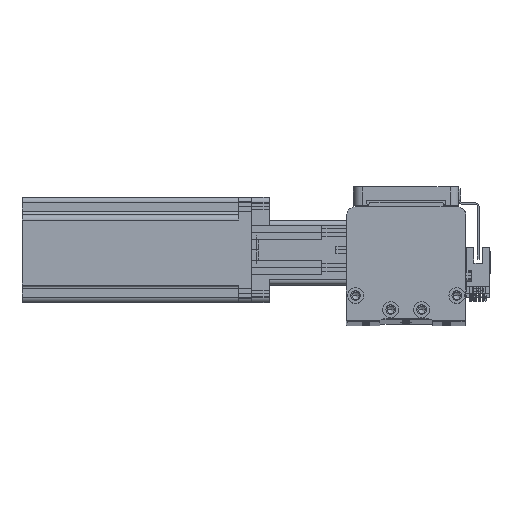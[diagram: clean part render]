
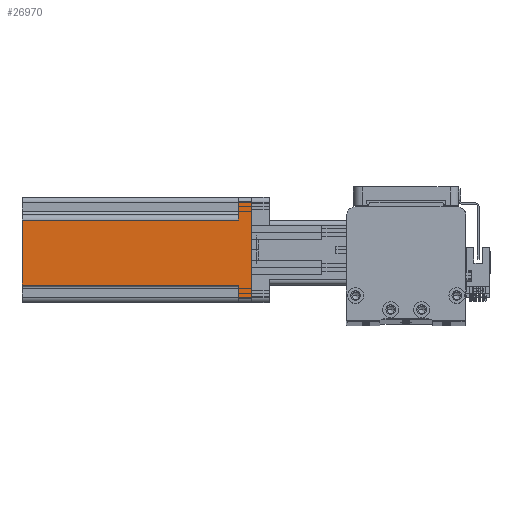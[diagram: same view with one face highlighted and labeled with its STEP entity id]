
A CAD part, top view. The second image highlights one B-rep face of the part: STEP entity #26970.
In plain terms, the highlighted planar face has unit normal (0, 0, 1) as drawn and (-1, 0, 0) by its records, which use the part's own axes.
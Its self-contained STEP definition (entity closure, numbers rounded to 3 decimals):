
#1935 = VERTEX_POINT ( 'NONE', #31607 ) ;
#2032 = PLANE ( 'NONE',  #30267 ) ;
#2621 = EDGE_CURVE ( 'NONE', #3790, #41989, #28660, .T. ) ;
#2654 = ORIENTED_EDGE ( 'NONE', *, *, #32243, .F. ) ;
#3316 = DIRECTION ( 'NONE',  ( 0., 0., 1. ) ) ;
#3790 = VERTEX_POINT ( 'NONE', #40654 ) ;
#4257 = CARTESIAN_POINT ( 'NONE',  ( -30., 27., 0. ) ) ;
#4940 = VECTOR ( 'NONE', #26757, 1000. ) ;
#5312 = ORIENTED_EDGE ( 'NONE', *, *, #17435, .T. ) ;
#5363 = ORIENTED_EDGE ( 'NONE', *, *, #2621, .F. ) ;
#5687 = LINE ( 'NONE', #50503, #26738 ) ;
#5998 = CARTESIAN_POINT ( 'NONE',  ( -30., -17., 7.5 ) ) ;
#6180 = DIRECTION ( 'NONE',  ( 1., 0., 0. ) ) ;
#6422 = EDGE_CURVE ( 'NONE', #34383, #1935, #14654, .T. ) ;
#11499 = EDGE_CURVE ( 'NONE', #50074, #3790, #11904, .T. ) ;
#11904 = LINE ( 'NONE', #23036, #41077 ) ;
#12210 = ORIENTED_EDGE ( 'NONE', *, *, #29849, .T. ) ;
#13269 = CARTESIAN_POINT ( 'NONE',  ( -30., -17., 130.7 ) ) ;
#14654 = LINE ( 'NONE', #41791, #33341 ) ;
#15485 = CARTESIAN_POINT ( 'NONE',  ( -30., -17., 130.7 ) ) ;
#16130 = LINE ( 'NONE', #15485, #17374 ) ;
#16532 = DIRECTION ( 'NONE',  ( 0., 1., 0. ) ) ;
#16864 = VECTOR ( 'NONE', #38345, 1000. ) ;
#17374 = VECTOR ( 'NONE', #23313, 1000. ) ;
#17435 = EDGE_CURVE ( 'NONE', #50074, #40183, #48961, .T. ) ;
#19873 = LINE ( 'NONE', #44743, #50319 ) ;
#20523 = CARTESIAN_POINT ( 'NONE',  ( -30., 30., 7.5 ) ) ;
#20949 = DIRECTION ( 'NONE',  ( 0., 0., -1. ) ) ;
#21459 = CARTESIAN_POINT ( 'NONE',  ( -30., 27., 7.5 ) ) ;
#21828 = DIRECTION ( 'NONE',  ( 0., 0., 1. ) ) ;
#22328 = EDGE_LOOP ( 'NONE', ( #2654, #47645, #5363, #33749, #5312, #12210, #35015, #28798 ) ) ;
#23036 = CARTESIAN_POINT ( 'NONE',  ( -30., 20., 7.5 ) ) ;
#23313 = DIRECTION ( 'NONE',  ( 0., 0., 1. ) ) ;
#25987 = LINE ( 'NONE', #46549, #4940 ) ;
#26738 = VECTOR ( 'NONE', #50328, 1000. ) ;
#26757 = DIRECTION ( 'NONE',  ( 0., -1., 0. ) ) ;
#26970 = ADVANCED_FACE ( 'NONE', ( #43930 ), #2032, .F. ) ;
#27833 = VECTOR ( 'NONE', #16532, 1000. ) ;
#28660 = LINE ( 'NONE', #40402, #16864 ) ;
#28798 = ORIENTED_EDGE ( 'NONE', *, *, #6422, .T. ) ;
#29849 = EDGE_CURVE ( 'NONE', #40183, #33557, #19873, .T. ) ;
#29906 = CARTESIAN_POINT ( 'NONE',  ( -30., -30., 130.7 ) ) ;
#30267 = AXIS2_PLACEMENT_3D ( 'NONE', #29906, #6180, #33933 ) ;
#31607 = CARTESIAN_POINT ( 'NONE',  ( -30., -27., 7.5 ) ) ;
#32094 = VERTEX_POINT ( 'NONE', #5998 ) ;
#32243 = EDGE_CURVE ( 'NONE', #32094, #1935, #25987, .T. ) ;
#33341 = VECTOR ( 'NONE', #21828, 1000. ) ;
#33480 = CARTESIAN_POINT ( 'NONE',  ( -30., 20., 7.5 ) ) ;
#33557 = VERTEX_POINT ( 'NONE', #4257 ) ;
#33749 = ORIENTED_EDGE ( 'NONE', *, *, #11499, .F. ) ;
#33933 = DIRECTION ( 'NONE',  ( 0., 0., -1. ) ) ;
#34383 = VERTEX_POINT ( 'NONE', #35343 ) ;
#34917 = EDGE_CURVE ( 'NONE', #33557, #34383, #5687, .T. ) ;
#35015 = ORIENTED_EDGE ( 'NONE', *, *, #34917, .T. ) ;
#35343 = CARTESIAN_POINT ( 'NONE',  ( -30., -27., 0. ) ) ;
#38345 = DIRECTION ( 'NONE',  ( 0., -1., 0. ) ) ;
#40183 = VERTEX_POINT ( 'NONE', #21459 ) ;
#40402 = CARTESIAN_POINT ( 'NONE',  ( -30., -30., 130.7 ) ) ;
#40654 = CARTESIAN_POINT ( 'NONE',  ( -30., 20., 130.7 ) ) ;
#41077 = VECTOR ( 'NONE', #3316, 1000. ) ;
#41791 = CARTESIAN_POINT ( 'NONE',  ( -30., -27., 130.7 ) ) ;
#41989 = VERTEX_POINT ( 'NONE', #13269 ) ;
#43930 = FACE_OUTER_BOUND ( 'NONE', #22328, .T. ) ;
#44608 = EDGE_CURVE ( 'NONE', #32094, #41989, #16130, .T. ) ;
#44743 = CARTESIAN_POINT ( 'NONE',  ( -30., 27., 130.7 ) ) ;
#46549 = CARTESIAN_POINT ( 'NONE',  ( -30., -30., 7.5 ) ) ;
#47645 = ORIENTED_EDGE ( 'NONE', *, *, #44608, .T. ) ;
#48961 = LINE ( 'NONE', #20523, #27833 ) ;
#50074 = VERTEX_POINT ( 'NONE', #33480 ) ;
#50319 = VECTOR ( 'NONE', #20949, 1000. ) ;
#50328 = DIRECTION ( 'NONE',  ( 0., -1., 0. ) ) ;
#50503 = CARTESIAN_POINT ( 'NONE',  ( -30., -30., 0. ) ) ;
